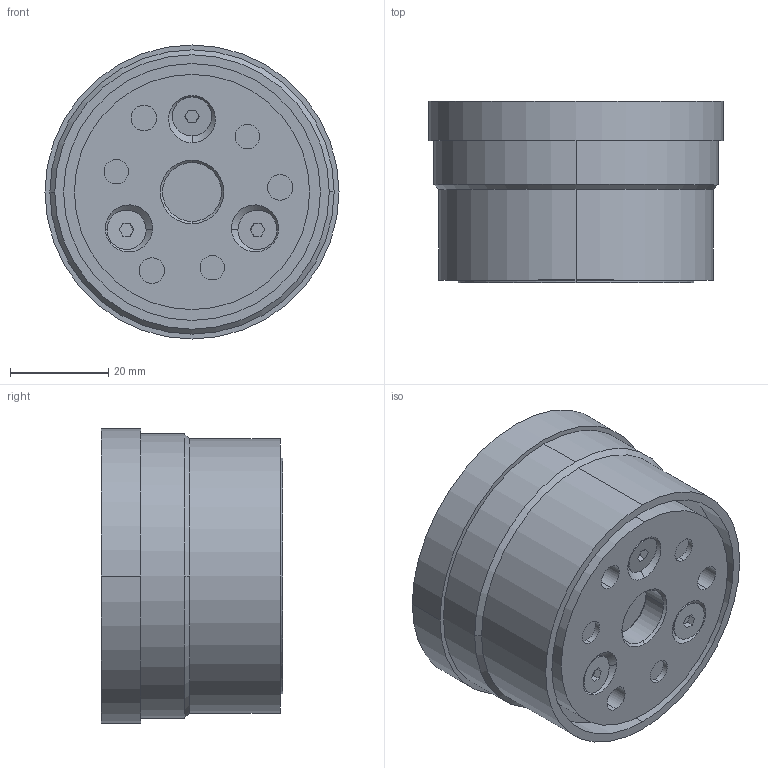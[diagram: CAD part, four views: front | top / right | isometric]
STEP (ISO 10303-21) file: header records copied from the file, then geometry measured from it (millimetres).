
FILE_DESCRIPTION (( 'STEP AP203' ), '1' );
FILE_NAME ('SMT-BS-040-048.STEP', '2023-09-19T08:34:54', ( '' ), ( '' ), 'SwSTEP 2.0', 'SolidWorks 2020', '' );
FILE_SCHEMA (( 'CONFIG_CONTROL_DESIGN' ));
Length unit declared in the file: millimetre
Products named in the file (1): SMT-BS-040-048
Bounding box: 60 x 37 x 60 mm (x, y, z)
Volume: 90651.4 mm3; surface area: 16779 mm2
Topology: 12 solids, 12 shells, 300 faces, 656 edges, 397 vertices
Faces by surface type: plane 123, cylinder 111, cone 58, torus 8
Entity records: 8192 total; most frequent: DIRECTION 1547, CARTESIAN_POINT 1362, ORIENTED_EDGE 1280, EDGE_CURVE 640, AXIS2_PLACEMENT_3D 612, VERTEX_POINT 397, EDGE_LOOP 347, VECTOR 323
